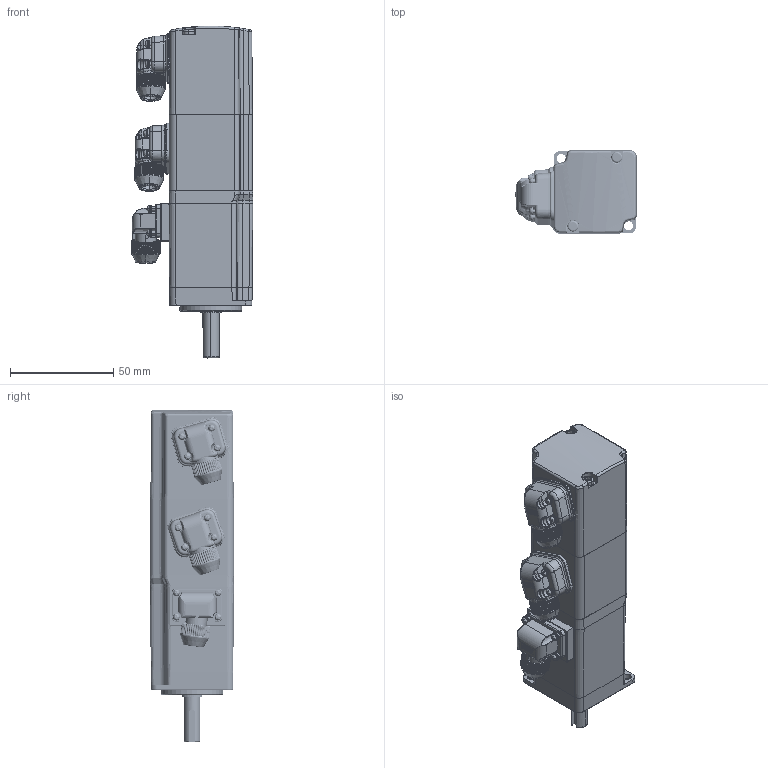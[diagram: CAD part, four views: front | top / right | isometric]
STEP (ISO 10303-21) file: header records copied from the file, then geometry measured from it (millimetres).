
FILE_DESCRIPTION((''),'2;1');
FILE_NAME('102','2017-05-26T',('Administrator'),(''),'PRO/ENGINEER BY PARAMETRIC TECHNOLOGY CORPORATION, 2010280','PRO/ENGINEER BY PARAMETRIC TECHNOLOGY CORPORATION, 2010280','');
FILE_SCHEMA(('CONFIG_CONTROL_DESIGN'));
Products named in the file (1): 102
Bounding box: 58.74 x 40.5 x 160.59 mm (x, y, z)
Volume: 91109.8 mm3; surface area: 53382.2 mm2
Topology: 26 solids, 47 shells, 4341 faces, 11442 edges, 7129 vertices
Faces by surface type: plane 1795, cylinder 1217, cone 534, bspline 467, torus 148, sphere 130, extrusion 50
Entity records: 165493 total; most frequent: CARTESIAN_POINT 66323, ORIENTED_EDGE 22104, DIRECTION 18077, EDGE_CURVE 11287, VERTEX_POINT 7129, AXIS2_PLACEMENT_3D 6334, VECTOR 5409, LINE 5359
